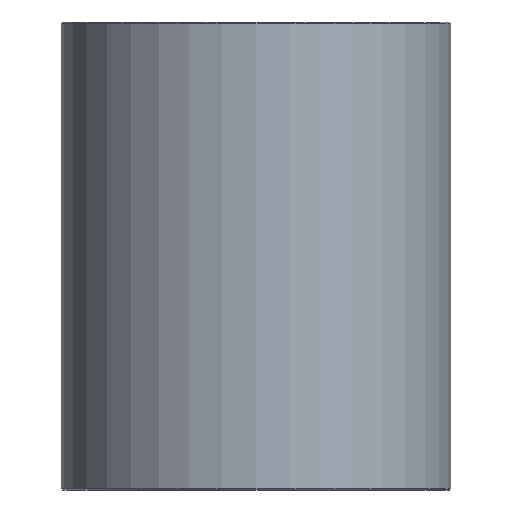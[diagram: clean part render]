
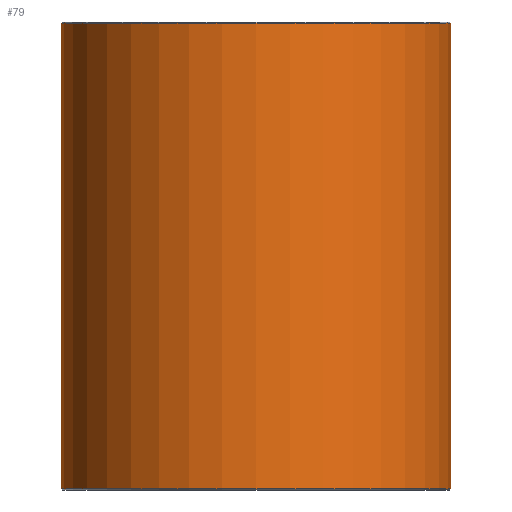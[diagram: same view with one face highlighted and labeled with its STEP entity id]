
A CAD part, front view. The second image highlights one B-rep face of the part: STEP entity #79.
In plain terms, the highlighted cylindrical face has radius 37.5 mm (diameter 75 mm), a full revolution.
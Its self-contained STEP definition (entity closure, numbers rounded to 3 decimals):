
#79=ADVANCED_FACE('',(#96,#97),#98,.T.);
#96=FACE_OUTER_BOUND('',#120,.T.);
#97=FACE_OUTER_BOUND('',#121,.T.);
#98=CYLINDRICAL_SURFACE('',#122,37.5);
#120=EDGE_LOOP('',(#152));
#121=EDGE_LOOP('',(#153));
#122=AXIS2_PLACEMENT_3D('',#154,#155,#156);
#152=ORIENTED_EDGE('',*,*,#178,.T.);
#153=ORIENTED_EDGE('',*,*,#177,.T.);
#154=CARTESIAN_POINT('',(0.,0.0,90.0));
#155=DIRECTION('',(0.0,0.0,-1.0));
#156=DIRECTION('',(-1.0,0.0,0.0));
#177=EDGE_CURVE('',#190,#190,#191,.T.);
#178=EDGE_CURVE('',#192,#192,#193,.F.);
#190=VERTEX_POINT('',#206);
#191=CIRCLE('',#207,37.5);
#192=VERTEX_POINT('',#208);
#193=CIRCLE('',#209,37.5);
#206=CARTESIAN_POINT('',(37.5,0.0,0.2));
#207=AXIS2_PLACEMENT_3D('',#227,#228,#229);
#208=CARTESIAN_POINT('',(37.5,0.,89.8));
#209=AXIS2_PLACEMENT_3D('',#230,#231,#232);
#227=CARTESIAN_POINT('',(0.,0.0,0.2));
#228=DIRECTION('',(0.0,0.0,1.0));
#229=DIRECTION('',(1.0,0.0,0.0));
#230=CARTESIAN_POINT('',(0.,0.0,89.8));
#231=DIRECTION('',(0.0,0.0,1.0));
#232=DIRECTION('',(1.0,0.0,0.0));
